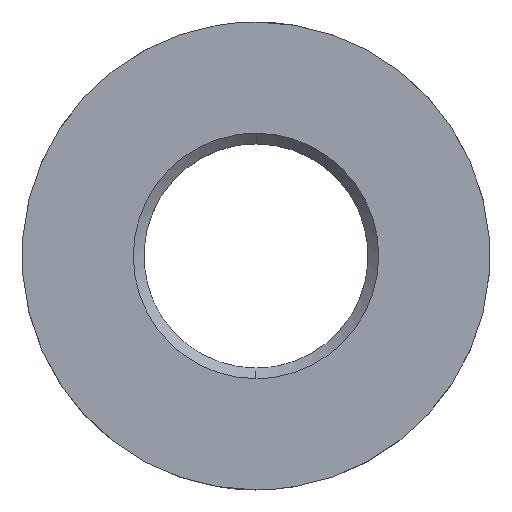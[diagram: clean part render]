
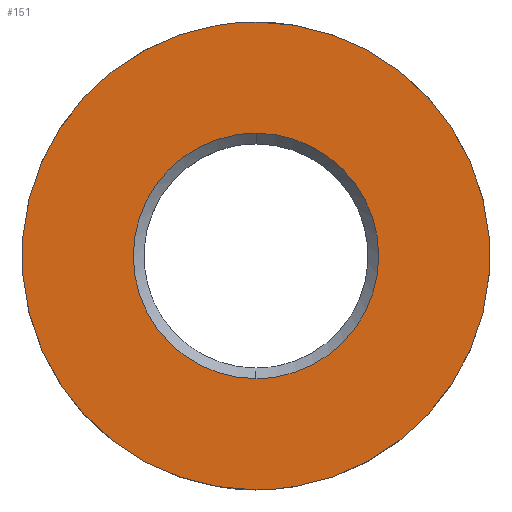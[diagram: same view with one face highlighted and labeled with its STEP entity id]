
A CAD part, top view. The second image highlights one B-rep face of the part: STEP entity #151.
In plain terms, the highlighted planar face has unit normal (0, 0, 1).
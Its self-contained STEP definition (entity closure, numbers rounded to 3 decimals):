
#3 = CARTESIAN_POINT ( 'NONE',  ( 5.458, 5.725, 5. ) ) ;
#6 = CARTESIAN_POINT ( 'NONE',  ( -15.924, -0.001, 5. ) ) ;
#20 = EDGE_LOOP ( 'NONE', ( #344, #87 ) ) ;
#25 = B_SPLINE_CURVE_WITH_KNOTS ( 'NONE', 8,
 ( #308, #226, #3, #162, #224, #279, #284, #256, #102 ),
 .UNSPECIFIED., .F., .F.,
 ( 9, 9 ),
 ( 0., 0.022 ),
 .UNSPECIFIED. ) ;
#32 = CARTESIAN_POINT ( 'NONE',  ( 0., -13.25, 5. ) ) ;
#34 = CARTESIAN_POINT ( 'NONE',  ( 0., -6.95, 5. ) ) ;
#35 = CARTESIAN_POINT ( 'NONE',  ( 0., -13.25, 5. ) ) ;
#38 = EDGE_CURVE ( 'NONE', #306, #181, #56, .T. ) ;
#45 = EDGE_CURVE ( 'NONE', #181, #306, #25, .T. ) ;
#56 = B_SPLINE_CURVE_WITH_KNOTS ( 'NONE', 8,
 ( #34, #382, #75, #282, #100, #69, #158, #166, #66 ),
 .UNSPECIFIED., .F., .F.,
 ( 9, 9 ),
 ( 0., 0.022 ),
 .UNSPECIFIED. ) ;
#64 = CARTESIAN_POINT ( 'NONE',  ( 0., 13.25, 5. ) ) ;
#65 = CARTESIAN_POINT ( 'NONE',  ( 14.387, 6.246, 5. ) ) ;
#66 = CARTESIAN_POINT ( 'NONE',  ( 0., 6.95, 5. ) ) ;
#69 = CARTESIAN_POINT ( 'NONE',  ( -7.546, 3.277, 5. ) ) ;
#75 = CARTESIAN_POINT ( 'NONE',  ( -5.458, -5.725, 5. ) ) ;
#82 = CARTESIAN_POINT ( 'NONE',  ( -5.203, 13.25, 5. ) ) ;
#84 = DIRECTION ( 'NONE',  ( 1., 0., 0. ) ) ;
#85 = B_SPLINE_CURVE_WITH_KNOTS ( 'NONE', 8,
 ( #241, #212, #161, #65, #379, #250, #311, #136, #32 ),
 .UNSPECIFIED., .F., .F.,
 ( 9, 9 ),
 ( 0., 0.041 ),
 .UNSPECIFIED. ) ;
#86 = CARTESIAN_POINT ( 'NONE',  ( 0., 6.95, 5. ) ) ;
#87 = ORIENTED_EDGE ( 'NONE', *, *, #390, .F. ) ;
#90 = FACE_BOUND ( 'NONE', #332, .T. ) ;
#94 = CARTESIAN_POINT ( 'NONE',  ( -5.203, -13.25, 5. ) ) ;
#100 = CARTESIAN_POINT ( 'NONE',  ( -8.352, -0.001, 5. ) ) ;
#102 = CARTESIAN_POINT ( 'NONE',  ( 0., -6.95, 5. ) ) ;
#125 = CARTESIAN_POINT ( 'NONE',  ( 13.78, -13.78, 5. ) ) ;
#129 = CARTESIAN_POINT ( 'NONE',  ( -14.387, -6.246, 5. ) ) ;
#136 = CARTESIAN_POINT ( 'NONE',  ( 5.203, -13.25, 5. ) ) ;
#137 = ORIENTED_EDGE ( 'NONE', *, *, #38, .T. ) ;
#138 = CARTESIAN_POINT ( 'NONE',  ( -10.406, 10.915, 5. ) ) ;
#151 = ADVANCED_FACE ( 'NONE', ( #267, #90 ), #152, .T. ) ;
#152 = PLANE ( 'NONE',  #205 ) ;
#158 = CARTESIAN_POINT ( 'NONE',  ( -5.458, 5.725, 5. ) ) ;
#161 = CARTESIAN_POINT ( 'NONE',  ( 10.406, 10.915, 5. ) ) ;
#162 = CARTESIAN_POINT ( 'NONE',  ( 7.546, 3.276, 5. ) ) ;
#166 = CARTESIAN_POINT ( 'NONE',  ( -2.729, 6.95, 5. ) ) ;
#181 = VERTEX_POINT ( 'NONE', #86 ) ;
#205 = AXIS2_PLACEMENT_3D ( 'NONE', #125, #328, #84 ) ;
#212 = CARTESIAN_POINT ( 'NONE',  ( 5.203, 13.25, 5. ) ) ;
#224 = CARTESIAN_POINT ( 'NONE',  ( 8.352, 0.001, 5. ) ) ;
#225 = CARTESIAN_POINT ( 'NONE',  ( 0., -13.25, 5. ) ) ;
#226 = CARTESIAN_POINT ( 'NONE',  ( 2.729, 6.95, 5. ) ) ;
#229 = CARTESIAN_POINT ( 'NONE',  ( 0., 13.25, 5. ) ) ;
#241 = CARTESIAN_POINT ( 'NONE',  ( 0., 13.25, 5. ) ) ;
#242 = ORIENTED_EDGE ( 'NONE', *, *, #45, .T. ) ;
#250 = CARTESIAN_POINT ( 'NONE',  ( 14.387, -6.247, 5. ) ) ;
#256 = CARTESIAN_POINT ( 'NONE',  ( 2.729, -6.95, 5. ) ) ;
#267 = FACE_OUTER_BOUND ( 'NONE', #20, .T. ) ;
#274 = EDGE_CURVE ( 'NONE', #299, #366, #85, .T. ) ;
#279 = CARTESIAN_POINT ( 'NONE',  ( 7.546, -3.277, 5. ) ) ;
#282 = CARTESIAN_POINT ( 'NONE',  ( -7.546, -3.276, 5. ) ) ;
#284 = CARTESIAN_POINT ( 'NONE',  ( 5.458, -5.725, 5. ) ) ;
#286 = B_SPLINE_CURVE_WITH_KNOTS ( 'NONE', 8,
 ( #35, #94, #340, #129, #6, #322, #138, #82, #229 ),
 .UNSPECIFIED., .F., .F.,
 ( 9, 9 ),
 ( 0., 0.041 ),
 .UNSPECIFIED. ) ;
#299 = VERTEX_POINT ( 'NONE', #64 ) ;
#305 = CARTESIAN_POINT ( 'NONE',  ( 0., -6.95, 5. ) ) ;
#306 = VERTEX_POINT ( 'NONE', #305 ) ;
#308 = CARTESIAN_POINT ( 'NONE',  ( 0., 6.95, 5. ) ) ;
#311 = CARTESIAN_POINT ( 'NONE',  ( 10.406, -10.915, 5. ) ) ;
#322 = CARTESIAN_POINT ( 'NONE',  ( -14.387, 6.247, 5. ) ) ;
#328 = DIRECTION ( 'NONE',  ( 0., 0., 1. ) ) ;
#332 = EDGE_LOOP ( 'NONE', ( #137, #242 ) ) ;
#340 = CARTESIAN_POINT ( 'NONE',  ( -10.406, -10.915, 5. ) ) ;
#344 = ORIENTED_EDGE ( 'NONE', *, *, #274, .F. ) ;
#366 = VERTEX_POINT ( 'NONE', #225 ) ;
#379 = CARTESIAN_POINT ( 'NONE',  ( 15.924, 0.001, 5. ) ) ;
#382 = CARTESIAN_POINT ( 'NONE',  ( -2.729, -6.95, 5. ) ) ;
#390 = EDGE_CURVE ( 'NONE', #366, #299, #286, .T. ) ;
